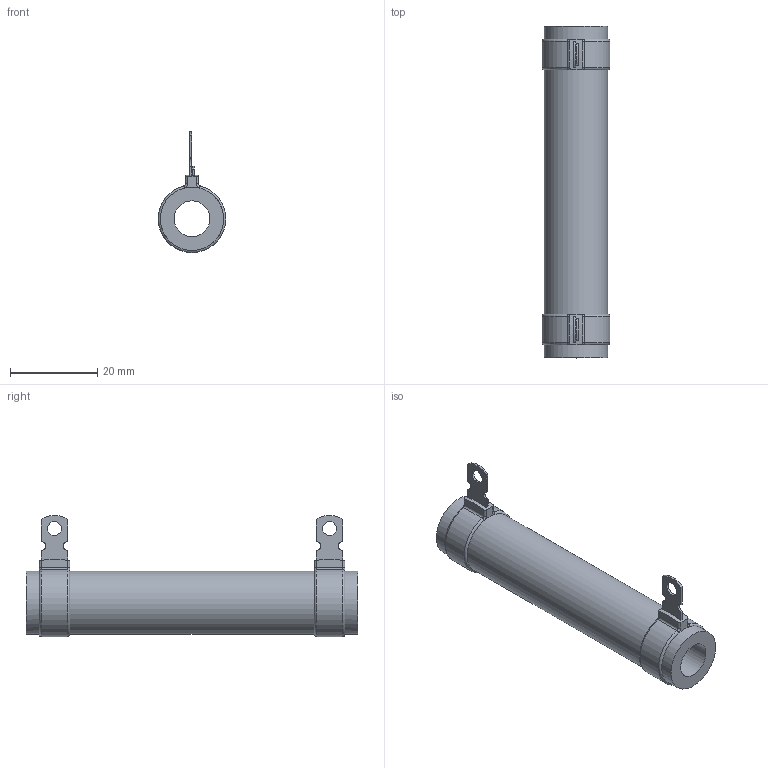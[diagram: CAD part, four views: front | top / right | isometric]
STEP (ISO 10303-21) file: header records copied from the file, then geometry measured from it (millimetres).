
FILE_DESCRIPTION(/* description */ (''),/* implementation_level */ '2;1');
FILE_NAME(/* name */ 'C:\_Vault\Dati\CATALOGO\RCA-RSA\25-1000\CA0036.stp',/* time_stamp */ '2014-01-22T14:38:52+01:00',/* author */ ('stefano'),/* organization */ (''),/* preprocessor_version */ 'ST-DEVELOPER v15.2',/* originating_system */ 'Autodesk Inventor 2014',/* authorisation */ '');
FILE_SCHEMA (('AUTOMOTIVE_DESIGN { 1 0 10303 214 3 1 1 }'));
Length unit declared in the file: millimetre
Products named in the file (1): CA0036
Bounding box: 15.49 x 76 x 27.75 mm (x, y, z)
Volume: 9004 mm3; surface area: 6086 mm2
Topology: 1 solids, 1 shells, 77 faces, 184 edges, 114 vertices
Faces by surface type: plane 35, cylinder 30, torus 12
Full cylindrical faces by diameter (mm): 3.2 x2, 8.2 x1, 14.5 x3
Entity records: 2371 total; most frequent: CARTESIAN_POINT 438, DIRECTION 406, ORIENTED_EDGE 352, EDGE_CURVE 176, AXIS2_PLACEMENT_3D 160, VERTEX_POINT 112, EDGE_LOOP 94, LINE 86
